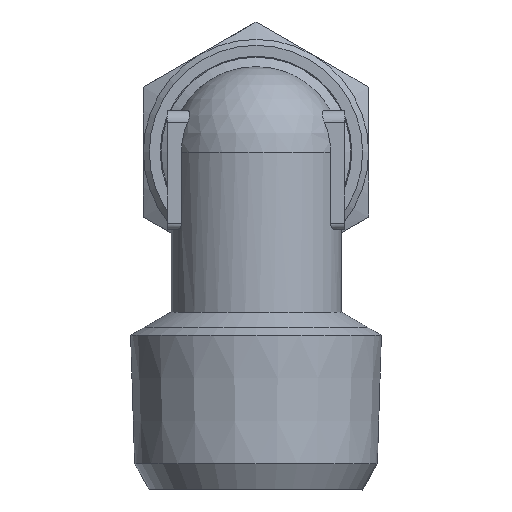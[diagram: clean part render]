
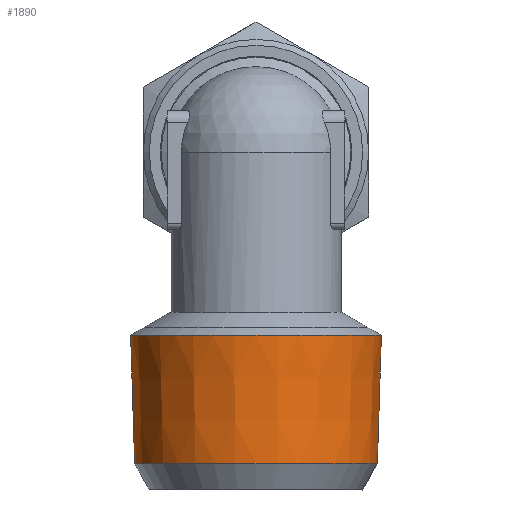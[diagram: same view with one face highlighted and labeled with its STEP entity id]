
A CAD part, left-side view. The second image highlights one B-rep face of the part: STEP entity #1890.
In plain terms, the highlighted conical face has half-angle 1.79 degrees and reference radius 10.573 mm.
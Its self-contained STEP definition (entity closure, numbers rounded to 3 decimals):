
#1890=ADVANCED_FACE('', (#1900,#1910), #1920, .T.);
#7220=AXIS2_PLACEMENT_3D('Ax2Pl3d', #7230, #7240, #7250);
#7340=AXIS2_PLACEMENT_3D('Ax2Pl3d', #7350, #7360, #7370);
#7380=AXIS2_PLACEMENT_3D('Ax2Pl3d', #7390, #7400, #7410);
#7230=CARTESIAN_POINT('HicPkt', (19.664,21.19,
28.17));
#37320=CARTESIAN_POINT('', (19.664,10.617,28.17));
#7350=CARTESIAN_POINT('HicPkt', (19.664,21.19,
17.317));
#37340=CARTESIAN_POINT('', (19.664,10.956,17.317));
#7390=CARTESIAN_POINT('HicPkt', (19.664,21.19,
28.17));
#38250=CIRCLE('Circle', #7220, 10.573);
#38270=CIRCLE('Circle', #7340, 10.234);
#1920=CONICAL_SURFACE('Kegel', #7380, 10.573, 
0.031);
#7240=DIRECTION('Axis', (0.,0.,1.));
#7250=DIRECTION('RefDirection', (1.,0.,-0.));
#7360=DIRECTION('Axis', (0.,0.,-1.));
#7370=DIRECTION('RefDirection', (-1.,-0.,0.));
#7400=DIRECTION('Axis', (0.,0.,1.));
#7410=DIRECTION('RefDirection', (1.,0.,-0.));
#46500=EDGE_CURVE('', #46510, #46510, #38250, .T.);
#46540=EDGE_CURVE('', #46550, #46550, #38270, .T.);
#50570=EDGE_LOOP('Edge_loop', (#50580));
#50590=EDGE_LOOP('Edge_loop', (#50600));
#1910=FACE_BOUND('', #50590, .T.);
#1900=FACE_OUTER_BOUND('Face_outer_bound', #50570, .T.);
#50580=ORIENTED_EDGE('', *, *, #46500, .F.);
#50600=ORIENTED_EDGE('', *, *, #46540, .F.);
#46510=VERTEX_POINT('', #37320);
#46550=VERTEX_POINT('', #37340);
